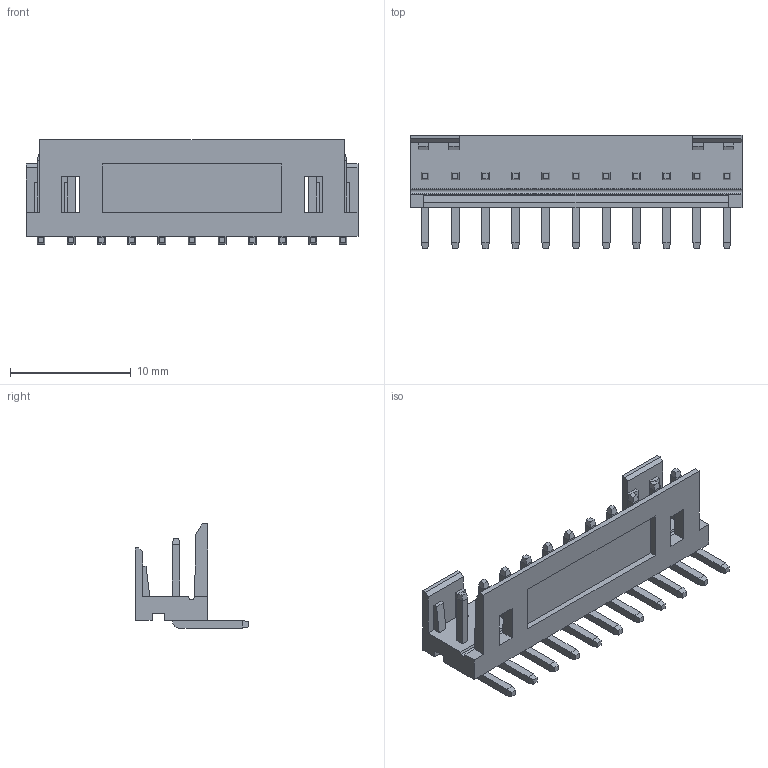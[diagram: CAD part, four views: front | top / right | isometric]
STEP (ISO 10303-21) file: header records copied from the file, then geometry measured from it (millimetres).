
FILE_DESCRIPTION(('CATIA V5 STEP Exchange'),'2;1');
FILE_NAME('F:\小黄\条形连接器\2.50系列\21--TJC9\NAW\HC-TJC9-11AW-05（2.50 单排 弯针-HCTL）.stp','2025-07-24T08:46:46+00:00',('none'),('none'),'CATIA Version 5 Release 20 GA (IN-10)','CATIA V5 STEP AP203','none');
FILE_SCHEMA(('CONFIG_CONTROL_DESIGN'));
Length unit declared in the file: millimetre
Products named in the file (1): Part2
Bounding box: 27.5 x 9.4 x 8.64 mm (x, y, z)
Volume: 492.9 mm3; surface area: 1177.9 mm2
Topology: 1 solids, 1 shells, 264 faces, 686 edges, 434 vertices
Faces by surface type: plane 252, cylinder 12
Entity records: 7110 total; most frequent: ORIENTED_EDGE 1372, CARTESIAN_POINT 1235, DIRECTION 914, EDGE_CURVE 686, VECTOR 662, LINE 662, VERTEX_POINT 434, EDGE_LOOP 278
